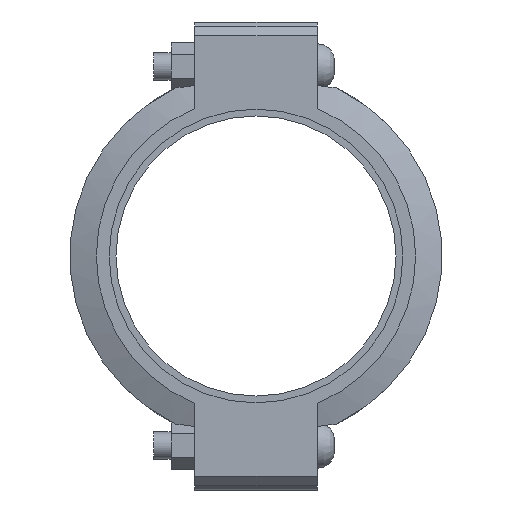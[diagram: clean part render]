
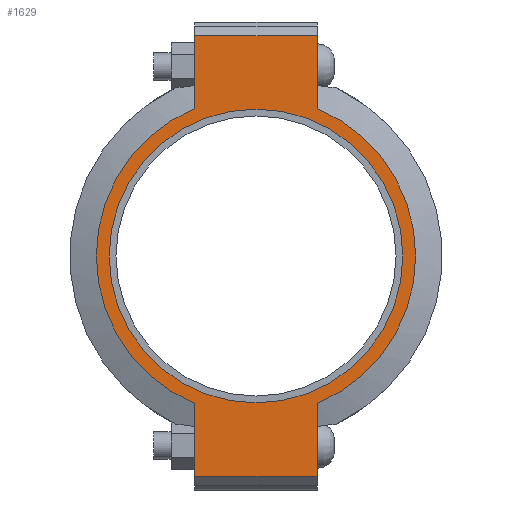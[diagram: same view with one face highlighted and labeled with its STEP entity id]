
A CAD part, left-side view. The second image highlights one B-rep face of the part: STEP entity #1629.
In plain terms, the highlighted planar face has unit normal (-1, 0, 0) as drawn and (0, 0, 1) by its records, which use the part's own axes.
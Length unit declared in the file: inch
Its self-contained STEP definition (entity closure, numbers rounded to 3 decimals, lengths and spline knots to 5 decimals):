
#200=LINE('',#2815,#289);
#211=LINE('',#2866,#300);
#217=LINE('',#2892,#306);
#219=LINE('',#2895,#308);
#220=LINE('',#2900,#309);
#221=LINE('',#2901,#310);
#289=VECTOR('',#2291,0.3937);
#300=VECTOR('',#2322,0.3937);
#306=VECTOR('',#2340,0.3937);
#308=VECTOR('',#2344,0.3937);
#309=VECTOR('',#2349,0.3937);
#310=VECTOR('',#2350,0.3937);
#372=FACE_BOUND('',#549,.T.);
#440=FACE_OUTER_BOUND('',#548,.T.);
#548=EDGE_LOOP('',(#1324,#1325,#1326,#1327,#1328,#1329,#1330,#1331));
#549=EDGE_LOOP('',(#1332));
#631=CIRCLE('',#1857,5.375);
#655=CIRCLE('',#1909,5.845);
#656=CIRCLE('',#1910,5.845);
#727=VERTEX_POINT('',#2641);
#768=VERTEX_POINT('',#2812);
#769=VERTEX_POINT('',#2814);
#786=VERTEX_POINT('',#2861);
#787=VERTEX_POINT('',#2865);
#794=VERTEX_POINT('',#2887);
#795=VERTEX_POINT('',#2891);
#796=VERTEX_POINT('',#2897);
#797=VERTEX_POINT('',#2899);
#891=EDGE_CURVE('',#727,#727,#631,.T.);
#948=EDGE_CURVE('',#769,#768,#200,.T.);
#969=EDGE_CURVE('',#787,#786,#211,.T.);
#980=EDGE_CURVE('',#795,#794,#217,.T.);
#982=EDGE_CURVE('',#795,#768,#219,.T.);
#983=EDGE_CURVE('',#794,#796,#655,.T.);
#984=EDGE_CURVE('',#796,#797,#220,.T.);
#985=EDGE_CURVE('',#787,#797,#221,.T.);
#986=EDGE_CURVE('',#786,#769,#656,.T.);
#1324=ORIENTED_EDGE('',*,*,#982,.F.);
#1325=ORIENTED_EDGE('',*,*,#980,.T.);
#1326=ORIENTED_EDGE('',*,*,#983,.T.);
#1327=ORIENTED_EDGE('',*,*,#984,.T.);
#1328=ORIENTED_EDGE('',*,*,#985,.F.);
#1329=ORIENTED_EDGE('',*,*,#969,.T.);
#1330=ORIENTED_EDGE('',*,*,#986,.T.);
#1331=ORIENTED_EDGE('',*,*,#948,.T.);
#1332=ORIENTED_EDGE('',*,*,#891,.T.);
#1469=PLANE('',#1908);
#1629=ADVANCED_FACE('',(#440,#372),#1469,.T.);
#1857=AXIS2_PLACEMENT_3D('',#2643,#2181,#2182);
#1908=AXIS2_PLACEMENT_3D('',#2896,#2345,#2346);
#1909=AXIS2_PLACEMENT_3D('',#2898,#2347,#2348);
#1910=AXIS2_PLACEMENT_3D('',#2902,#2351,#2352);
#2181=DIRECTION('center_axis',(0.,0.,-1.));
#2182=DIRECTION('ref_axis',(-1.,0.,0.));
#2291=DIRECTION('',(-1.,0.,0.));
#2322=DIRECTION('',(-1.,0.,0.));
#2340=DIRECTION('',(1.,0.,0.));
#2344=DIRECTION('',(0.,1.,0.));
#2345=DIRECTION('center_axis',(0.,0.,1.));
#2346=DIRECTION('ref_axis',(1.,0.,0.));
#2347=DIRECTION('center_axis',(0.,0.,1.));
#2348=DIRECTION('ref_axis',(-1.,0.,0.));
#2349=DIRECTION('',(1.,0.,0.));
#2350=DIRECTION('',(0.,-1.,0.));
#2351=DIRECTION('center_axis',(0.,0.,1.));
#2352=DIRECTION('ref_axis',(-1.,0.,0.));
#2641=CARTESIAN_POINT('',(5.375,0.,1.315));
#2643=CARTESIAN_POINT('Origin',(0.,0.,1.315));
#2812=CARTESIAN_POINT('',(-8.065,2.25,1.315));
#2814=CARTESIAN_POINT('',(-5.39458,2.25,1.315));
#2815=CARTESIAN_POINT('',(8.565,2.25,1.315));
#2861=CARTESIAN_POINT('',(5.39458,2.25,1.315));
#2865=CARTESIAN_POINT('',(8.065,2.25,1.315));
#2866=CARTESIAN_POINT('',(8.565,2.25,1.315));
#2887=CARTESIAN_POINT('',(-5.39458,-2.25,1.315));
#2891=CARTESIAN_POINT('',(-8.065,-2.25,1.315));
#2892=CARTESIAN_POINT('',(-8.565,-2.25,1.315));
#2895=CARTESIAN_POINT('',(-8.065,1.125,1.315));
#2896=CARTESIAN_POINT('Origin',(0.,0.,
1.315));
#2897=CARTESIAN_POINT('',(5.39458,-2.25,1.315));
#2898=CARTESIAN_POINT('Origin',(0.,0.,1.315));
#2899=CARTESIAN_POINT('',(8.065,-2.25,1.315));
#2900=CARTESIAN_POINT('',(-8.565,-2.25,1.315));
#2901=CARTESIAN_POINT('',(8.065,-1.125,1.315));
#2902=CARTESIAN_POINT('Origin',(0.,0.,1.315));
